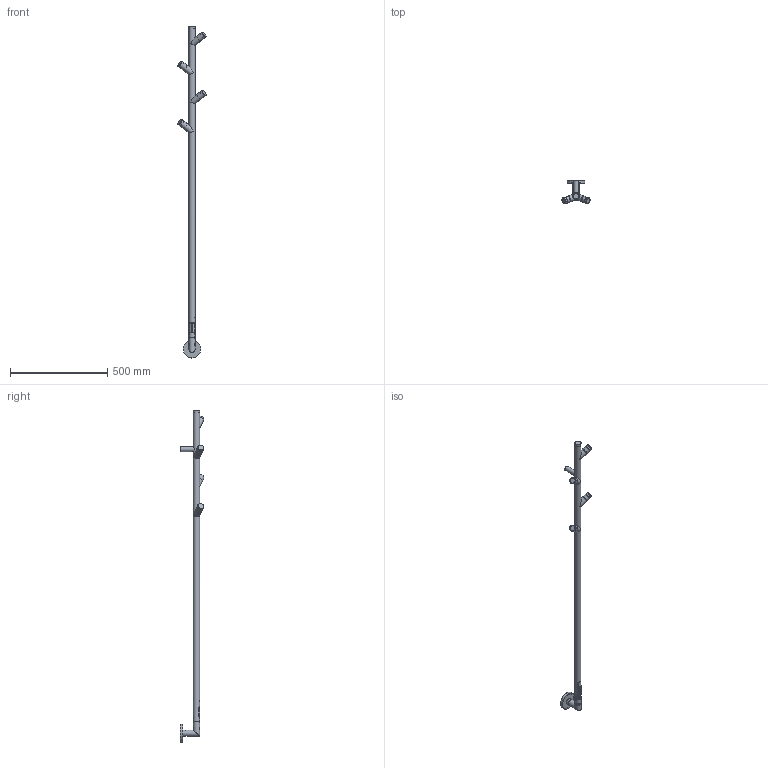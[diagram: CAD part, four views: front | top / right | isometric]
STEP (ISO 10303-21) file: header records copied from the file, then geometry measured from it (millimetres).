
FILE_DESCRIPTION(/* description */ ('Unknown'),/* implementation_level */ '2;1');
FILE_NAME(/* name */ 'LS1SS',/* time_stamp */ '2024-06-02T11:02:39+02:00',/* author */ ('Unknown'),/* organization */ ('Unknown'),/* preprocessor_version */ 'ST-DEVELOPER v18.102',/* originating_system */ 'Solid Edge',/* authorisation */ 'Unknown');
FILE_SCHEMA (('AUTOMOTIVE_DESIGN {1 0 10303 214 3 1 1}'));
Length unit declared in the file: millimetre
Products named in the file (19): LS - Lisa; LS-V-TR-32-1-1600 - Svislá trubka LS; BW-K-2 - Koleno spodní BW; PD-R-1 - Rozeta; BW-K-TR-R - Trubka kolena u rozety; BW-K-TR-K - Trubka kolena u konektoru; Sestava p鷫p璯a鋀; PD-P-1 - Spodní díl pøepínaèe; PD-P-2 - Horní díl pøepínaèe; PD-P-3 - Kryt p鷫p璯a鋀; PD-K-2 - Konektor 30x60 s dírou pro kabel; Nýtová matice M5; PD-V-1 - Víèko 32; OL-HD - Svaøenec držáku; OL-TR-HD - Trubka horního držáku; LD-P-P - Pøipojovací plech; PD-LS-Plastová pøíchytka; LS-TR-32-1-80-Háèek; ŠROUB_DIN_912_M5x20
Assembly tree (34 placements, depth 3):
  LS - Lisa
    LS-V-TR-32-1-1600 - Svislá trubka LS
    BW-K-2 - Koleno spodní BW
      PD-R-1 - Rozeta
      BW-K-TR-R - Trubka kolena u rozety
      BW-K-TR-K - Trubka kolena u konektoru
    Sestava p鷫p璯a鋀
      PD-P-1 - Spodní díl pøepínaèe
      PD-P-2 - Horní díl pøepínaèe
      PD-P-3 - Kryt p鷫p璯a鋀
    PD-K-2 - Konektor 30x60 s dírou pro kabel
    Nýtová matice M5  x4
    PD-V-1 - Víèko 32  x5
    OL-HD - Svaøenec držáku
      OL-TR-HD - Trubka horního držáku
      LD-P-P - Pøipojovací plech
    PD-LS-Plastová pøíchytka  x4
    LS-TR-32-1-80-Háèek  x4
    ŠROUB_DIN_912_M5x20  x4
Bounding box: 145.24 x 122.05 x 1707.5 mm (x, y, z)
Volume: 376696.8 mm3; surface area: 496617.8 mm2
Topology: 31 solids, 31 shells, 1136 faces, 2828 edges, 1788 vertices
Faces by surface type: cylinder 443, plane 410, torus 157, sphere 58, cone 46, bspline 22
Full cylindrical faces by diameter (mm): 2.4 x2, 3.4 x2, 4.019 x4, 4.134 x5, 4.3 x3, 5 x10, 5.2 x2, 5.5 x10, 6.9 x8, 7 x5, 8 x4, 8.5 x4, 10 x4, 12.5 x1, 21 x1, 21.95 x1, 22 x1, 23 x1, 25 x1, 25.1 x2, 26.1 x2, 26.5 x5, 28.5 x3, 29 x3, 29.5 x8, 29.8 x4, 30 x5, 32 x12, 81.8 x1, 87.2 x1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
Entity records: 29180 total; most frequent: CARTESIAN_POINT 7659, ORIENTED_EDGE 4162, DIRECTION 4022, EDGE_CURVE 2081, AXIS2_PLACEMENT_3D 1549, VERTEX_POINT 1369, EDGE_LOOP 1062, FACE_BOUND 1062
